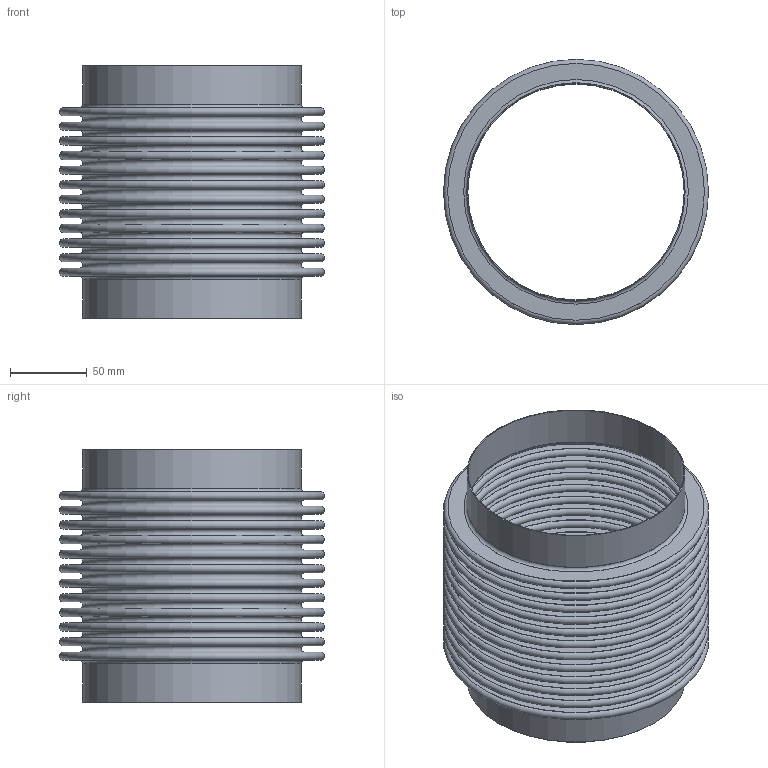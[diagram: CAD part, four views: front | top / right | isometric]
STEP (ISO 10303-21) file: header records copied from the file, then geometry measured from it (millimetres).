
FILE_DESCRIPTION(/* description */ (''),/* implementation_level */ '2;1');
FILE_NAME(/* name */ 'US-5-12-85L.stp',/* time_stamp */ '2026-07-21T11:10:45-05:00',/* author */ ('linda'),/* organization */ (''),/* preprocessor_version */ 'ST-DEVELOPER v20.1',/* originating_system */ 'Autodesk Inventor 2026',/* authorisation */ '');
FILE_SCHEMA (('AUTOMOTIVE_DESIGN { 1 0 10303 214 3 1 1 }'));
Length unit declared in the file: inch
Products named in the file (1): Part3
Bounding box: 173.05 x 173.05 x 165.1 mm (x, y, z)
Volume: 143724.9 mm3; surface area: 473169 mm2
Topology: 3 solids, 3 shells, 108 faces, 162 edges, 109 vertices
Faces by surface type: plane 54, torus 50, cylinder 4
Full cylindrical faces by diameter (mm): 141.3 x2, 142.519 x2
Entity records: 2667 total; most frequent: DIRECTION 538, CARTESIAN_POINT 380, ORIENTED_EDGE 324, AXIS2_PLACEMENT_3D 267, EDGE_LOOP 162, EDGE_CURVE 162, CIRCLE 158, STYLED_ITEM 111
